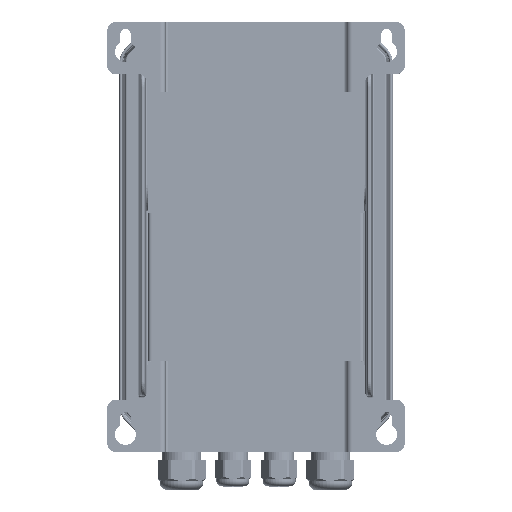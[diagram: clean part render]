
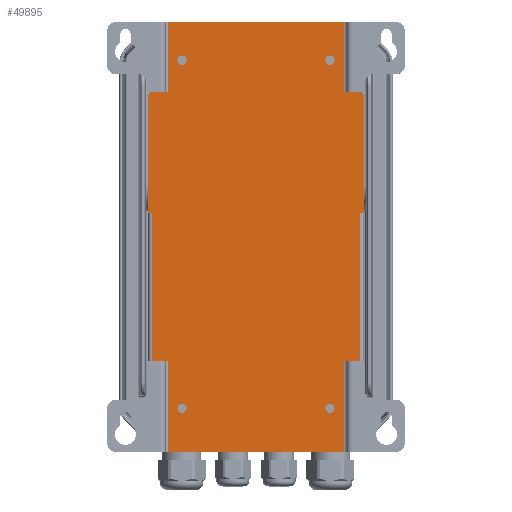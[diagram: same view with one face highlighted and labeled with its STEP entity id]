
A CAD part, top view. The second image highlights one B-rep face of the part: STEP entity #49895.
In plain terms, the highlighted planar face has unit normal (0, 0, 1) as drawn and (0, 1, 0) by its records, which use the part's own axes.
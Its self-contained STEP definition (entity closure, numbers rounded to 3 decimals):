
#47720=CARTESIAN_POINT('',(-59.,1.5,-79.));
#47721=DIRECTION('',(0.,-1.,0.));
#47722=DIRECTION('',(-1.,0.,0.));
#47723=AXIS2_PLACEMENT_3D('',#47720,#47721,#47722);
#47725=DIRECTION('',(1.,0.,0.));
#47726=VECTOR('',#47725,8.5);
#47727=CARTESIAN_POINT('',(-59.,1.5,-82.));
#47728=LINE('',#47727,#47726);
#47729=DIRECTION('',(1.,0.,0.));
#47730=VECTOR('',#47729,8.5);
#47731=CARTESIAN_POINT('',(50.5,1.5,-82.));
#47732=LINE('',#47731,#47730);
#47733=CARTESIAN_POINT('',(59.,1.5,-79.));
#47734=DIRECTION('',(0.,-1.,0.));
#47735=DIRECTION('',(0.,0.,-1.));
#47736=AXIS2_PLACEMENT_3D('',#47733,#47734,#47735);
#47738=DIRECTION('',(0.,0.,1.));
#47739=VECTOR('',#47738,66.5);
#47740=CARTESIAN_POINT('',(62.,1.5,-79.));
#47741=LINE('',#47740,#47739);
#47742=DIRECTION('',(-1.,0.,0.));
#47743=VECTOR('',#47742,2.);
#47744=CARTESIAN_POINT('',(62.,1.5,-12.5));
#47745=LINE('',#47744,#47743);
#47746=DIRECTION('',(-1.,0.,0.));
#47747=VECTOR('',#47746,9.5);
#47748=CARTESIAN_POINT('',(60.,1.5,73.));
#47749=LINE('',#47748,#47747);
#47750=DIRECTION('',(-1.,0.,0.));
#47751=VECTOR('',#47750,9.5);
#47752=CARTESIAN_POINT('',(-50.5,1.5,73.));
#47753=LINE('',#47752,#47751);
#47754=DIRECTION('',(-1.,0.,0.));
#47755=VECTOR('',#47754,2.);
#47756=CARTESIAN_POINT('',(-60.,1.5,-12.5));
#47757=LINE('',#47756,#47755);
#47758=DIRECTION('',(0.,0.,-1.));
#47759=VECTOR('',#47758,66.5);
#47760=CARTESIAN_POINT('',(-62.,1.5,-12.5));
#47761=LINE('',#47760,#47759);
#47762=CARTESIAN_POINT('',(42.5,1.5,-100.));
#47763=DIRECTION('',(0.,1.,0.));
#47764=DIRECTION('',(-1.,0.,0.));
#47765=AXIS2_PLACEMENT_3D('',#47762,#47763,#47764);
#47767=CARTESIAN_POINT('',(42.5,1.5,-100.));
#47768=DIRECTION('',(0.,1.,0.));
#47769=DIRECTION('',(1.,0.,0.));
#47770=AXIS2_PLACEMENT_3D('',#47767,#47768,#47769);
#47772=CARTESIAN_POINT('',(-42.5,1.5,100.));
#47773=DIRECTION('',(0.,1.,0.));
#47774=DIRECTION('',(-1.,0.,0.));
#47775=AXIS2_PLACEMENT_3D('',#47772,#47773,#47774);
#47777=CARTESIAN_POINT('',(-42.5,1.5,100.));
#47778=DIRECTION('',(0.,1.,0.));
#47779=DIRECTION('',(1.,0.,0.));
#47780=AXIS2_PLACEMENT_3D('',#47777,#47778,#47779);
#47782=CARTESIAN_POINT('',(42.5,1.5,100.));
#47783=DIRECTION('',(0.,1.,0.));
#47784=DIRECTION('',(-1.,0.,0.));
#47785=AXIS2_PLACEMENT_3D('',#47782,#47783,#47784);
#47787=CARTESIAN_POINT('',(42.5,1.5,100.));
#47788=DIRECTION('',(0.,1.,0.));
#47789=DIRECTION('',(1.,0.,0.));
#47790=AXIS2_PLACEMENT_3D('',#47787,#47788,#47789);
#47792=CARTESIAN_POINT('',(-42.5,1.5,-100.));
#47793=DIRECTION('',(0.,1.,0.));
#47794=DIRECTION('',(-1.,0.,0.));
#47795=AXIS2_PLACEMENT_3D('',#47792,#47793,#47794);
#47797=CARTESIAN_POINT('',(-42.5,1.5,-100.));
#47798=DIRECTION('',(0.,1.,0.));
#47799=DIRECTION('',(1.,0.,0.));
#47800=AXIS2_PLACEMENT_3D('',#47797,#47798,#47799);
#47846=DIRECTION('',(-1.,0.,0.));
#47847=VECTOR('',#47846,101.);
#47848=CARTESIAN_POINT('',(50.5,1.5,-122.));
#47849=LINE('',#47848,#47847);
#47936=DIRECTION('',(0.,0.,-1.));
#47937=VECTOR('',#47936,85.5);
#47938=CARTESIAN_POINT('',(60.,1.5,73.));
#47939=LINE('',#47938,#47937);
#48066=DIRECTION('',(1.,0.,0.));
#48067=VECTOR('',#48066,101.);
#48068=CARTESIAN_POINT('',(-50.5,1.5,125.));
#48069=LINE('',#48068,#48067);
#48140=DIRECTION('',(0.,0.,1.));
#48141=VECTOR('',#48140,85.5);
#48142=CARTESIAN_POINT('',(-60.,1.5,-12.5));
#48143=LINE('',#48142,#48141);
#48242=DIRECTION('',(0.,0.,1.));
#48243=VECTOR('',#48242,52.);
#48244=CARTESIAN_POINT('',(-50.5,1.5,73.));
#48245=LINE('',#48244,#48243);
#48500=DIRECTION('',(0.,0.,-1.));
#48501=VECTOR('',#48500,52.);
#48502=CARTESIAN_POINT('',(50.5,1.5,125.));
#48503=LINE('',#48502,#48501);
#48750=DIRECTION('',(0.,0.,-1.));
#48751=VECTOR('',#48750,40.);
#48752=CARTESIAN_POINT('',(50.5,1.5,-82.));
#48753=LINE('',#48752,#48751);
#49008=DIRECTION('',(0.,0.,1.));
#49009=VECTOR('',#49008,40.);
#49010=CARTESIAN_POINT('',(-50.5,1.5,-122.));
#49011=LINE('',#49010,#49009);
#49342=CARTESIAN_POINT('',(-39.85,1.5,-100.));
#49343=VERTEX_POINT('',#49342);
#49344=CARTESIAN_POINT('',(-45.15,1.5,-100.));
#49345=VERTEX_POINT('',#49344);
#49346=CARTESIAN_POINT('',(-62.,1.5,-79.));
#49347=CARTESIAN_POINT('',(-59.,1.5,-82.));
#49348=VERTEX_POINT('',#49346);
#49349=VERTEX_POINT('',#49347);
#49350=CARTESIAN_POINT('',(-50.5,1.5,-82.));
#49351=VERTEX_POINT('',#49350);
#49352=CARTESIAN_POINT('',(-50.5,1.5,-122.));
#49353=VERTEX_POINT('',#49352);
#49354=CARTESIAN_POINT('',(50.5,1.5,-122.));
#49355=VERTEX_POINT('',#49354);
#49356=CARTESIAN_POINT('',(50.5,1.5,-82.));
#49357=VERTEX_POINT('',#49356);
#49358=CARTESIAN_POINT('',(59.,1.5,-82.));
#49359=VERTEX_POINT('',#49358);
#49360=CARTESIAN_POINT('',(62.,1.5,-79.));
#49361=VERTEX_POINT('',#49360);
#49362=CARTESIAN_POINT('',(62.,1.5,-12.5));
#49363=VERTEX_POINT('',#49362);
#49364=CARTESIAN_POINT('',(60.,1.5,-12.5));
#49365=VERTEX_POINT('',#49364);
#49366=CARTESIAN_POINT('',(60.,1.5,73.));
#49367=VERTEX_POINT('',#49366);
#49368=CARTESIAN_POINT('',(50.5,1.5,73.));
#49369=VERTEX_POINT('',#49368);
#49370=CARTESIAN_POINT('',(50.5,1.5,125.));
#49371=VERTEX_POINT('',#49370);
#49372=CARTESIAN_POINT('',(-50.5,1.5,125.));
#49373=VERTEX_POINT('',#49372);
#49374=CARTESIAN_POINT('',(-50.5,1.5,73.));
#49375=VERTEX_POINT('',#49374);
#49376=CARTESIAN_POINT('',(-60.,1.5,73.));
#49377=VERTEX_POINT('',#49376);
#49378=CARTESIAN_POINT('',(-60.,1.5,-12.5));
#49379=VERTEX_POINT('',#49378);
#49380=CARTESIAN_POINT('',(-62.,1.5,-12.5));
#49381=VERTEX_POINT('',#49380);
#49382=CARTESIAN_POINT('',(39.85,1.5,-100.));
#49383=CARTESIAN_POINT('',(45.15,1.5,-100.));
#49384=VERTEX_POINT('',#49382);
#49385=VERTEX_POINT('',#49383);
#49386=CARTESIAN_POINT('',(-45.15,1.5,100.));
#49387=CARTESIAN_POINT('',(-39.85,1.5,100.));
#49388=VERTEX_POINT('',#49386);
#49389=VERTEX_POINT('',#49387);
#49390=CARTESIAN_POINT('',(39.85,1.5,100.));
#49391=CARTESIAN_POINT('',(45.15,1.5,100.));
#49392=VERTEX_POINT('',#49390);
#49393=VERTEX_POINT('',#49391);
#49829=CARTESIAN_POINT('',(0.,1.5,0.));
#49830=DIRECTION('',(0.,1.,0.));
#49831=DIRECTION('',(1.,0.,0.));
#49832=AXIS2_PLACEMENT_3D('',#49829,#49830,#49831);
#49833=PLANE('',#49832);
#49834=ORIENTED_EDGE('',*,*,#49819,.T.);
#49836=ORIENTED_EDGE('',*,*,#49835,.T.);
#49838=ORIENTED_EDGE('',*,*,#49837,.F.);
#49840=ORIENTED_EDGE('',*,*,#49839,.F.);
#49842=ORIENTED_EDGE('',*,*,#49841,.F.);
#49844=ORIENTED_EDGE('',*,*,#49843,.T.);
#49846=ORIENTED_EDGE('',*,*,#49845,.T.);
#49848=ORIENTED_EDGE('',*,*,#49847,.T.);
#49850=ORIENTED_EDGE('',*,*,#49849,.T.);
#49852=ORIENTED_EDGE('',*,*,#49851,.F.);
#49854=ORIENTED_EDGE('',*,*,#49853,.T.);
#49856=ORIENTED_EDGE('',*,*,#49855,.F.);
#49858=ORIENTED_EDGE('',*,*,#49857,.F.);
#49860=ORIENTED_EDGE('',*,*,#49859,.F.);
#49862=ORIENTED_EDGE('',*,*,#49861,.T.);
#49864=ORIENTED_EDGE('',*,*,#49863,.F.);
#49866=ORIENTED_EDGE('',*,*,#49865,.T.);
#49868=ORIENTED_EDGE('',*,*,#49867,.T.);
#49869=EDGE_LOOP('',(#49834,#49836,#49838,#49840,#49842,#49844,#49846,#49848,
#49850,#49852,#49854,#49856,#49858,#49860,#49862,#49864,#49866,#49868));
#49870=FACE_OUTER_BOUND('',#49869,.F.);
#49872=ORIENTED_EDGE('',*,*,#49871,.T.);
#49874=ORIENTED_EDGE('',*,*,#49873,.T.);
#49875=EDGE_LOOP('',(#49872,#49874));
#49876=FACE_BOUND('',#49875,.F.);
#49878=ORIENTED_EDGE('',*,*,#49877,.T.);
#49880=ORIENTED_EDGE('',*,*,#49879,.T.);
#49881=EDGE_LOOP('',(#49878,#49880));
#49882=FACE_BOUND('',#49881,.F.);
#49884=ORIENTED_EDGE('',*,*,#49883,.T.);
#49886=ORIENTED_EDGE('',*,*,#49885,.T.);
#49887=EDGE_LOOP('',(#49884,#49886));
#49888=FACE_BOUND('',#49887,.F.);
#49890=ORIENTED_EDGE('',*,*,#49889,.T.);
#49892=ORIENTED_EDGE('',*,*,#49891,.T.);
#49893=EDGE_LOOP('',(#49890,#49892));
#49894=FACE_BOUND('',#49893,.F.);
#49895=ADVANCED_FACE('',(#49870,#49876,#49882,#49888,#49894),#49833,.T.);
#47724=CIRCLE('',#47723,3.);
#47737=CIRCLE('',#47736,3.);
#47766=CIRCLE('',#47765,2.65);
#47771=CIRCLE('',#47770,2.65);
#47776=CIRCLE('',#47775,2.65);
#47781=CIRCLE('',#47780,2.65);
#47786=CIRCLE('',#47785,2.65);
#47791=CIRCLE('',#47790,2.65);
#47796=CIRCLE('',#47795,2.65);
#47801=CIRCLE('',#47800,2.65);
#49819=EDGE_CURVE('',#49348,#49349,#47724,.T.);
#49835=EDGE_CURVE('',#49349,#49351,#47728,.T.);
#49837=EDGE_CURVE('',#49353,#49351,#49011,.T.);
#49839=EDGE_CURVE('',#49355,#49353,#47849,.T.);
#49841=EDGE_CURVE('',#49357,#49355,#48753,.T.);
#49843=EDGE_CURVE('',#49357,#49359,#47732,.T.);
#49845=EDGE_CURVE('',#49359,#49361,#47737,.T.);
#49847=EDGE_CURVE('',#49361,#49363,#47741,.T.);
#49849=EDGE_CURVE('',#49363,#49365,#47745,.T.);
#49851=EDGE_CURVE('',#49367,#49365,#47939,.T.);
#49853=EDGE_CURVE('',#49367,#49369,#47749,.T.);
#49855=EDGE_CURVE('',#49371,#49369,#48503,.T.);
#49857=EDGE_CURVE('',#49373,#49371,#48069,.T.);
#49859=EDGE_CURVE('',#49375,#49373,#48245,.T.);
#49861=EDGE_CURVE('',#49375,#49377,#47753,.T.);
#49863=EDGE_CURVE('',#49379,#49377,#48143,.T.);
#49865=EDGE_CURVE('',#49379,#49381,#47757,.T.);
#49867=EDGE_CURVE('',#49381,#49348,#47761,.T.);
#49871=EDGE_CURVE('',#49384,#49385,#47766,.T.);
#49873=EDGE_CURVE('',#49385,#49384,#47771,.T.);
#49877=EDGE_CURVE('',#49388,#49389,#47776,.T.);
#49879=EDGE_CURVE('',#49389,#49388,#47781,.T.);
#49883=EDGE_CURVE('',#49392,#49393,#47786,.T.);
#49885=EDGE_CURVE('',#49393,#49392,#47791,.T.);
#49889=EDGE_CURVE('',#49345,#49343,#47796,.T.);
#49891=EDGE_CURVE('',#49343,#49345,#47801,.T.);
